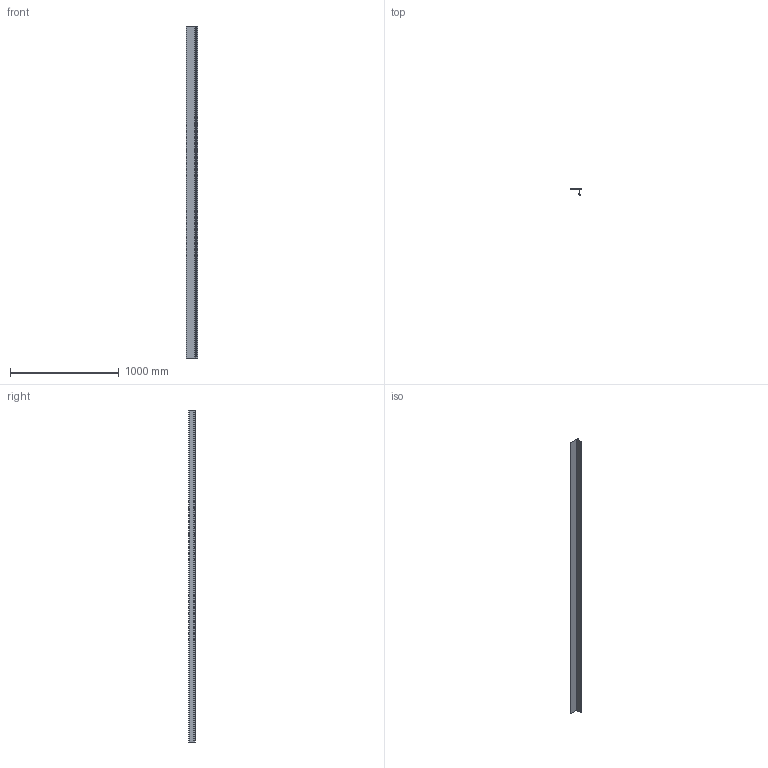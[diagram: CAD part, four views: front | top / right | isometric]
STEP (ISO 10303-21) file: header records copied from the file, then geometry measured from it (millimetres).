
FILE_DESCRIPTION (( 'STEP AP203' ), '1' );
FILE_NAME ('M58AB.1.75.STEP', '2018-06-15T18:58:07', ( 'Michael Moliner' ), ( '' ), 'SwSTEP 2.0', 'SolidWorks 2018', '' );
FILE_SCHEMA (( 'CONFIG_CONTROL_DESIGN' ));
Length unit declared in the file: inch
Products named in the file (2): M58AB.1.75
Bounding box: 107.8 x 56.82 x 3048 mm (x, y, z)
Volume: 317141.4 mm3; surface area: 1251893 mm2
Topology: 1 solids, 1 shells, 20 faces, 54 edges, 36 vertices
Faces by surface type: plane 14, cylinder 6
Entity records: 787 total; most frequent: CARTESIAN_POINT 112, DIRECTION 110, ORIENTED_EDGE 108, EDGE_CURVE 54, VECTOR 42, LINE 42, VERTEX_POINT 36, AXIS2_PLACEMENT_3D 34
